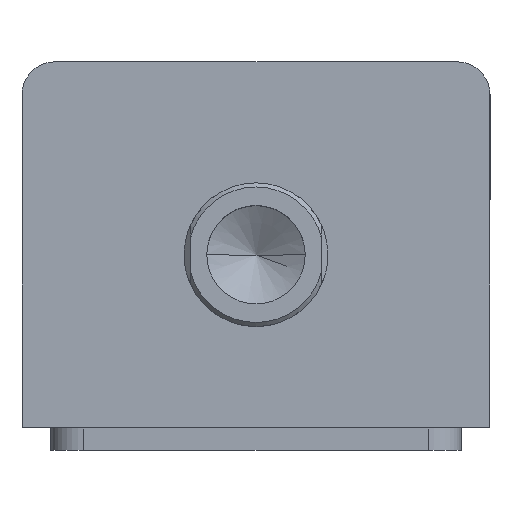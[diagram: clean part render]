
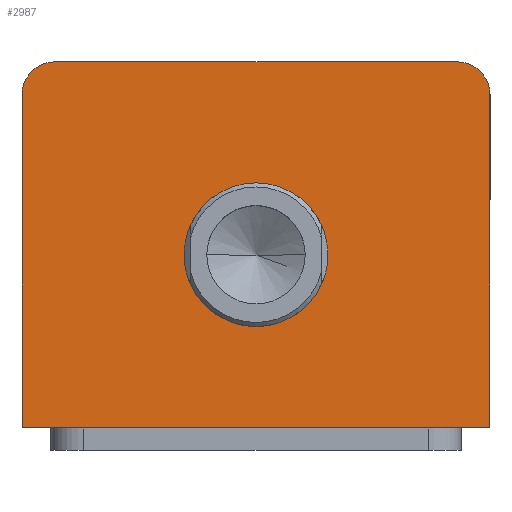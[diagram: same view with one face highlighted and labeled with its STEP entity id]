
A CAD part, top view. The second image highlights one B-rep face of the part: STEP entity #2987.
In plain terms, the highlighted planar face has unit normal (0, 0, 1).
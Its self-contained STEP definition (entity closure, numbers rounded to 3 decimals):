
#367 = EDGE_CURVE ( 'NONE', #2230, #2148, #1316, .T. ) ;
#370 = EDGE_CURVE ( 'NONE', #2148, #2230, #1311, .T. ) ;
#472 = CARTESIAN_POINT ( 'NONE',  ( 17.5, -2.5, 107. ) ) ;
#479 = CARTESIAN_POINT ( 'NONE',  ( -57., -44.5, 107. ) ) ;
#507 = CARTESIAN_POINT ( 'NONE',  ( 57., -44.5, 107. ) ) ;
#519 = CARTESIAN_POINT ( 'NONE',  ( -57., 36.5, 107. ) ) ;
#625 = DIRECTION ( 'NONE',  ( 0., -1., 0. ) ) ;
#626 = CARTESIAN_POINT ( 'NONE',  ( -57., 44.5, 107. ) ) ;
#632 = CARTESIAN_POINT ( 'NONE',  ( -49., 36.5, 107. ) ) ;
#649 = DIRECTION ( 'NONE',  ( 1., 0., 0. ) ) ;
#652 = DIRECTION ( 'NONE',  ( 0., 0., 1. ) ) ;
#731 = DIRECTION ( 'NONE',  ( 1., 0., 0. ) ) ;
#732 = DIRECTION ( 'NONE',  ( 0., 0., 1. ) ) ;
#733 = CARTESIAN_POINT ( 'NONE',  ( 49., 36.5, 107. ) ) ;
#764 = DIRECTION ( 'NONE',  ( 0., 1., 0. ) ) ;
#767 = CARTESIAN_POINT ( 'NONE',  ( 57., 44.5, 107. ) ) ;
#895 = DIRECTION ( 'NONE',  ( 1., 0., 0. ) ) ;
#897 = DIRECTION ( 'NONE',  ( 0., 0., 1. ) ) ;
#899 = CARTESIAN_POINT ( 'NONE',  ( 0., -2.5, 107. ) ) ;
#909 = DIRECTION ( 'NONE',  ( 1., 0., 0. ) ) ;
#910 = DIRECTION ( 'NONE',  ( 0., 0., 1. ) ) ;
#912 = CARTESIAN_POINT ( 'NONE',  ( 0., -2.5, 107. ) ) ;
#942 = EDGE_CURVE ( 'NONE', #2124, #2428, #1246, .T. ) ;
#964 = FACE_OUTER_BOUND ( 'NONE', #2101, .T. ) ;
#968 = FACE_BOUND ( 'NONE', #2103, .T. ) ;
#1033 = EDGE_CURVE ( 'NONE', #2428, #2239, #1239, .T. ) ;
#1035 = VECTOR ( 'NONE', #2981, 1000. ) ;
#1038 = LINE ( 'NONE', #2982, #1035 ) ;
#1068 = VECTOR ( 'NONE', #3053, 1000. ) ;
#1070 = LINE ( 'NONE', #3055, #1068 ) ;
#1119 = EDGE_CURVE ( 'NONE', #2236, #2091, #1223, .T. ) ;
#1140 = EDGE_CURVE ( 'NONE', #2091, #2143, #1216, .T. ) ;
#1212 = VECTOR ( 'NONE', #625, 1000. ) ;
#1216 = LINE ( 'NONE', #626, #1212 ) ;
#1223 = CIRCLE ( 'NONE', #1819, 8. ) ;
#1239 = CIRCLE ( 'NONE', #1826, 8. ) ;
#1243 = VECTOR ( 'NONE', #764, 1000. ) ;
#1246 = LINE ( 'NONE', #767, #1243 ) ;
#1311 = CIRCLE ( 'NONE', #1855, 17.5 ) ;
#1316 = CIRCLE ( 'NONE', #1866, 17.5 ) ;
#1589 = AXIS2_PLACEMENT_3D ( 'NONE', #3398, #3391, #3390 ) ;
#1819 = AXIS2_PLACEMENT_3D ( 'NONE', #632, #652, #649 ) ;
#1826 = AXIS2_PLACEMENT_3D ( 'NONE', #733, #732, #731 ) ;
#1855 = AXIS2_PLACEMENT_3D ( 'NONE', #899, #897, #895 ) ;
#1866 = AXIS2_PLACEMENT_3D ( 'NONE', #912, #910, #909 ) ;
#2091 = VERTEX_POINT ( 'NONE', #519 ) ;
#2101 = EDGE_LOOP ( 'NONE', ( #2457, #2284, #2285, #2288, #2317, #2324 ) ) ;
#2103 = EDGE_LOOP ( 'NONE', ( #2433, #2434 ) ) ;
#2124 = VERTEX_POINT ( 'NONE', #507 ) ;
#2143 = VERTEX_POINT ( 'NONE', #479 ) ;
#2148 = VERTEX_POINT ( 'NONE', #472 ) ;
#2230 = VERTEX_POINT ( 'NONE', #2920 ) ;
#2236 = VERTEX_POINT ( 'NONE', #2900 ) ;
#2239 = VERTEX_POINT ( 'NONE', #2889 ) ;
#2284 = ORIENTED_EDGE ( 'NONE', *, *, #1119, .T. ) ;
#2285 = ORIENTED_EDGE ( 'NONE', *, *, #1140, .T. ) ;
#2288 = ORIENTED_EDGE ( 'NONE', *, *, #2572, .T. ) ;
#2317 = ORIENTED_EDGE ( 'NONE', *, *, #942, .T. ) ;
#2324 = ORIENTED_EDGE ( 'NONE', *, *, #1033, .T. ) ;
#2428 = VERTEX_POINT ( 'NONE', #3179 ) ;
#2433 = ORIENTED_EDGE ( 'NONE', *, *, #370, .F. ) ;
#2434 = ORIENTED_EDGE ( 'NONE', *, *, #367, .F. ) ;
#2457 = ORIENTED_EDGE ( 'NONE', *, *, #2589, .T. ) ;
#2572 = EDGE_CURVE ( 'NONE', #2143, #2124, #1070, .T. ) ;
#2589 = EDGE_CURVE ( 'NONE', #2239, #2236, #1038, .T. ) ;
#2889 = CARTESIAN_POINT ( 'NONE',  ( 49., 44.5, 107. ) ) ;
#2900 = CARTESIAN_POINT ( 'NONE',  ( -49., 44.5, 107. ) ) ;
#2920 = CARTESIAN_POINT ( 'NONE',  ( -17.5, -2.5, 107. ) ) ;
#2981 = DIRECTION ( 'NONE',  ( -1., 0., 0. ) ) ;
#2982 = CARTESIAN_POINT ( 'NONE',  ( -57., 44.5, 107. ) ) ;
#2987 = ADVANCED_FACE ( 'NONE', ( #968, #964 ), #3394, .T. ) ;
#3053 = DIRECTION ( 'NONE',  ( 1., 0., 0. ) ) ;
#3055 = CARTESIAN_POINT ( 'NONE',  ( -57., -44.5, 107. ) ) ;
#3179 = CARTESIAN_POINT ( 'NONE',  ( 57., 36.5, 107. ) ) ;
#3390 = DIRECTION ( 'NONE',  ( 1., 0., 0. ) ) ;
#3391 = DIRECTION ( 'NONE',  ( 0., 0., 1. ) ) ;
#3394 = PLANE ( 'NONE',  #1589 ) ;
#3398 = CARTESIAN_POINT ( 'NONE',  ( 0., 0., 107. ) ) ;
